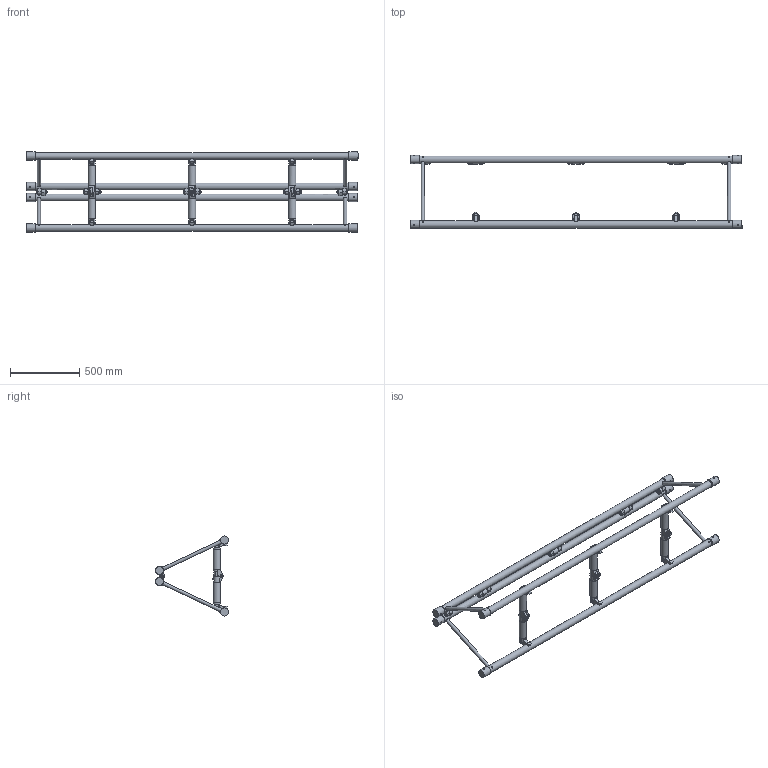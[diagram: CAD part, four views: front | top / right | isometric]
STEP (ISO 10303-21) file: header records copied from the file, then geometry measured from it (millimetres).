
FILE_DESCRIPTION(/* description */ (''),/* implementation_level */ '2;1');
FILE_NAME(/* name */ 'M:\Symbolen_NIEUW\STP\52-er truss\S52F\S52F-L240_111110088.stp',/* time_stamp */ '2017-11-10T14:40:11+01:00',/* author */ ('Kees'),/* organization */ (''),/* preprocessor_version */ 'ST-DEVELOPER v16.13',/* originating_system */ 'Autodesk Inventor 2018',/* authorisation */ '');
FILE_SCHEMA (('AUTOMOTIVE_DESIGN { 1 0 10303 214 3 1 1 }'));
Length unit declared in the file: millimetre
Products named in the file (1): 260008543
Bounding box: 2400 x 528.69 x 578.8 mm (x, y, z)
Volume: 23865757.8 mm3; surface area: 2217015.3 mm2
Topology: 12 solids, 12 shells, 918 faces, 2314 edges, 1509 vertices
Faces by surface type: plane 578, cylinder 239, cone 101
Full cylindrical faces by diameter (mm): 10 x8, 12 x22, 12.5 x13, 12.8 x12, 13 x20, 17.4 x10, 24 x8, 25 x4, 50 x10, 54 x6, 58.8 x8
Entity records: 28741 total; most frequent: CARTESIAN_POINT 6554, DIRECTION 4389, ORIENTED_EDGE 4222, EDGE_CURVE 2111, AXIS2_PLACEMENT_3D 1635, VERTEX_POINT 1488, EDGE_LOOP 1299, LINE 1119
